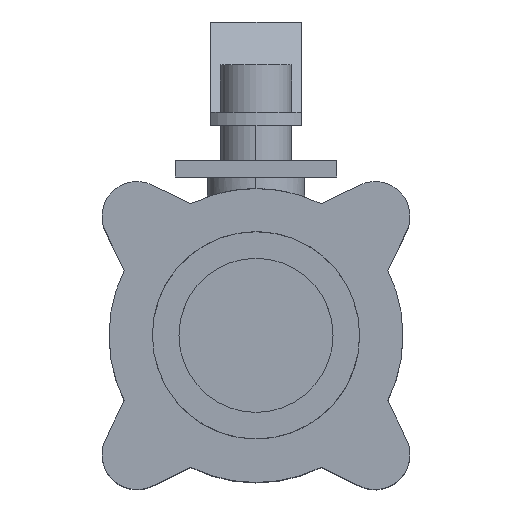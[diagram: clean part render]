
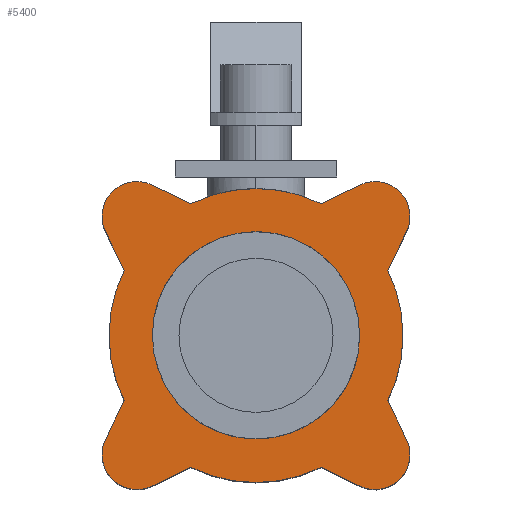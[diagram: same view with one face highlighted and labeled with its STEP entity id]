
A CAD part, top view. The second image highlights one B-rep face of the part: STEP entity #5400.
In plain terms, the highlighted planar face has unit normal (0, 0, 1) as drawn and (-1, 0, 0) by its records, which use the part's own axes.
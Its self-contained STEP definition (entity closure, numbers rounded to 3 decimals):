
#950=CARTESIAN_POINT('',(-75.5,0.,0.));
#960=DIRECTION('',(-1.,0.,0.));
#970=DIRECTION('',(0.,0.,1.));
#980=AXIS2_PLACEMENT_3D('',#950,#960,#970);
#990=CIRCLE('',#980,45.4);
#1000=CARTESIAN_POINT('',(-75.5,14.515,43.017));
#1010=VERTEX_POINT('',#1000);
#1020=CARTESIAN_POINT('',(-75.5,43.017,14.515));
#1030=VERTEX_POINT('',#1020);
#1040=EDGE_CURVE('',#1010,#1030,#990,.T.);
#1780=CARTESIAN_POINT('',(-75.5,14.515,43.017));
#1790=DIRECTION('',(0.,0.326,-0.946));
#1800=VECTOR('',#1790,1.);
#1810=LINE('',#1780,#1800);
#1820=CARTESIAN_POINT('',(-75.5,10.212,55.516));
#1830=VERTEX_POINT('',#1820);
#1840=EDGE_CURVE('',#1830,#1010,#1810,.T.);
#2090=CARTESIAN_POINT('',(-75.5,-43.017,14.515));
#2100=DIRECTION('',(0.,0.946,0.326));
#2110=VECTOR('',#2100,1.);
#2120=LINE('',#2090,#2110);
#2130=CARTESIAN_POINT('',(-75.5,-55.516,10.212));
#2140=VERTEX_POINT('',#2130);
#2150=CARTESIAN_POINT('',(-75.5,-43.017,14.515));
#2160=VERTEX_POINT('',#2150);
#2170=EDGE_CURVE('',#2140,#2160,#2120,.T.);
#2940=CARTESIAN_POINT('',(-75.5,-43.017,-14.515));
#2950=VERTEX_POINT('',#2940);
#2980=CARTESIAN_POINT('',(-75.5,-55.516,-10.212));
#2990=DIRECTION('',(0.,0.946,-0.326));
#3000=VECTOR('',#2990,1.);
#3010=LINE('',#2980,#3000);
#3020=CARTESIAN_POINT('',(-75.5,-55.516,-10.212));
#3030=VERTEX_POINT('',#3020);
#3040=EDGE_CURVE('',#3030,#2950,#3010,.T.);
#3330=CARTESIAN_POINT('',(-75.5,-10.212,55.516));
#3340=VERTEX_POINT('',#3330);
#3370=CARTESIAN_POINT('',(-75.5,0.,52.));
#3380=DIRECTION('',(-1.,0.,0.));
#3390=DIRECTION('',(0.,0.,1.));
#3400=AXIS2_PLACEMENT_3D('',#3370,#3380,#3390);
#3410=CIRCLE('',#3400,10.8);
#3420=EDGE_CURVE('',#3340,#1830,#3410,.T.);
#4250=CARTESIAN_POINT('',(-75.5,0.,-60.65)
);
#4260=DIRECTION('',(1.,0.,-0.));
#4270=DIRECTION('',(0.,0.,1.));
#4280=AXIS2_PLACEMENT_3D('',#4250,#4260,#4270);
#4290=PLANE('',#4280);
#4300=CARTESIAN_POINT('',(-75.5,10.212,-55.516));
#4310=DIRECTION('',(0.,0.326,0.946));
#4320=VECTOR('',#4310,1.);
#4330=LINE('',#4300,#4320);
#4340=CARTESIAN_POINT('',(-75.5,10.212,-55.516));
#4350=VERTEX_POINT('',#4340);
#4360=CARTESIAN_POINT('',(-75.5,14.515,-43.017));
#4370=VERTEX_POINT('',#4360);
#4380=EDGE_CURVE('',#4350,#4370,#4330,.T.);
#4390=ORIENTED_EDGE('',*,*,#4380,.F.);
#4400=CARTESIAN_POINT('',(-75.5,0.,0.));
#4410=DIRECTION('',(-1.,0.,0.));
#4420=DIRECTION('',(0.,0.,1.));
#4430=AXIS2_PLACEMENT_3D('',#4400,#4410,#4420);
#4440=CIRCLE('',#4430,45.4);
#4450=CARTESIAN_POINT('',(-75.5,43.017,-14.515));
#4460=VERTEX_POINT('',#4450);
#4470=EDGE_CURVE('',#4460,#4370,#4440,.T.);
#4480=ORIENTED_EDGE('',*,*,#4470,.T.);
#4490=CARTESIAN_POINT('',(-75.5,55.516,-10.212));
#4500=DIRECTION('',(0.,0.946,0.326));
#4510=VECTOR('',#4500,1.);
#4520=LINE('',#4490,#4510);
#4530=CARTESIAN_POINT('',(-75.5,55.516,-10.212));
#4540=VERTEX_POINT('',#4530);
#4550=EDGE_CURVE('',#4460,#4540,#4520,.T.);
#4560=ORIENTED_EDGE('',*,*,#4550,.F.);
#4570=CARTESIAN_POINT('',(-75.5,52.,0.));
#4580=DIRECTION('',(1.,0.,0.));
#4590=DIRECTION('',(0.,0.,-1.));
#4600=AXIS2_PLACEMENT_3D('',#4570,#4580,#4590);
#4610=CIRCLE('',#4600,10.8);
#4620=CARTESIAN_POINT('',(-75.5,55.516,10.212));
#4630=VERTEX_POINT('',#4620);
#4640=EDGE_CURVE('',#4540,#4630,#4610,.T.);
#4650=ORIENTED_EDGE('',*,*,#4640,.F.);
#4660=CARTESIAN_POINT('',(-75.5,55.516,10.212));
#4670=DIRECTION('',(0.,0.946,-0.326));
#4680=VECTOR('',#4670,1.);
#4690=LINE('',#4660,#4680);
#4700=EDGE_CURVE('',#1030,#4630,#4690,.T.);
#4710=ORIENTED_EDGE('',*,*,#4700,.T.);
#4720=ORIENTED_EDGE('',*,*,#1040,.T.);
#4730=ORIENTED_EDGE('',*,*,#1840,.T.);
#4740=ORIENTED_EDGE('',*,*,#3420,.T.);
#4750=CARTESIAN_POINT('',(-75.5,-10.212,55.516));
#4760=DIRECTION('',(0.,-0.326,-0.946));
#4770=VECTOR('',#4760,1.);
#4780=LINE('',#4750,#4770);
#4790=CARTESIAN_POINT('',(-75.5,-14.515,43.017));
#4800=VERTEX_POINT('',#4790);
#4810=EDGE_CURVE('',#3340,#4800,#4780,.T.);
#4820=ORIENTED_EDGE('',*,*,#4810,.F.);
#4830=CARTESIAN_POINT('',(-75.5,0.,0.));
#4840=DIRECTION('',(-1.,0.,0.));
#4850=DIRECTION('',(0.,0.,1.));
#4860=AXIS2_PLACEMENT_3D('',#4830,#4840,#4850);
#4870=CIRCLE('',#4860,45.4);
#4880=EDGE_CURVE('',#2160,#4800,#4870,.T.);
#4890=ORIENTED_EDGE('',*,*,#4880,.T.);
#4900=ORIENTED_EDGE('',*,*,#2170,.T.);
#4910=CARTESIAN_POINT('',(-75.5,-52.,0.));
#4920=DIRECTION('',(1.,0.,0.));
#4930=DIRECTION('',(0.,0.,-1.));
#4940=AXIS2_PLACEMENT_3D('',#4910,#4920,#4930);
#4950=CIRCLE('',#4940,10.8);
#4960=EDGE_CURVE('',#2140,#3030,#4950,.T.);
#4970=ORIENTED_EDGE('',*,*,#4960,.F.);
#4980=ORIENTED_EDGE('',*,*,#3040,.F.);
#4990=CARTESIAN_POINT('',(-75.5,0.,0.));
#5000=DIRECTION('',(-1.,0.,0.));
#5010=DIRECTION('',(0.,0.,1.));
#5020=AXIS2_PLACEMENT_3D('',#4990,#5000,#5010);
#5030=CIRCLE('',#5020,45.4);
#5040=CARTESIAN_POINT('',(-75.5,-14.515,-43.017));
#5050=VERTEX_POINT('',#5040);
#5060=EDGE_CURVE('',#5050,#2950,#5030,.T.);
#5070=ORIENTED_EDGE('',*,*,#5060,.T.);
#5080=CARTESIAN_POINT('',(-75.5,-10.212,-55.516));
#5090=DIRECTION('',(0.,0.326,-0.946));
#5100=VECTOR('',#5090,1.);
#5110=LINE('',#5080,#5100);
#5120=CARTESIAN_POINT('',(-75.5,-10.212,-55.516));
#5130=VERTEX_POINT('',#5120);
#5140=EDGE_CURVE('',#5050,#5130,#5110,.T.);
#5150=ORIENTED_EDGE('',*,*,#5140,.F.);
#5160=CARTESIAN_POINT('',(-75.5,0.,-52.));
#5170=DIRECTION('',(1.,0.,0.));
#5180=DIRECTION('',(0.,0.,-1.));
#5190=AXIS2_PLACEMENT_3D('',#5160,#5170,#5180);
#5200=CIRCLE('',#5190,10.8);
#5210=EDGE_CURVE('',#5130,#4350,#5200,.T.);
#5220=ORIENTED_EDGE('',*,*,#5210,.F.);
#5230=EDGE_LOOP('',(#5220,#5150,#5070,#4980,#4970,#4900,#4890,#4820,
#4740,#4730,#4720,#4710,#4650,#4560,#4480,#4390));
#5240=FACE_OUTER_BOUND('',#5230,.T.);
#5250=CARTESIAN_POINT('',(-75.5,0.,0.));
#5260=DIRECTION('',(-1.,0.,0.));
#5270=DIRECTION('',(0.,-0.707,0.707));
#5280=AXIS2_PLACEMENT_3D('',#5250,#5260,#5270);
#5290=CIRCLE('',#5280,25.4);
#5300=CARTESIAN_POINT('',(-75.5,-17.961,17.961));
#5310=VERTEX_POINT('',#5300);
#5320=CARTESIAN_POINT('',(-75.5,17.961,-17.961));
#5330=VERTEX_POINT('',#5320);
#5340=EDGE_CURVE('',#5310,#5330,#5290,.T.);
#5350=ORIENTED_EDGE('',*,*,#5340,.F.);
#5360=EDGE_CURVE('',#5330,#5310,#5290,.T.);
#5370=ORIENTED_EDGE('',*,*,#5360,.F.);
#5380=EDGE_LOOP('',(#5370,#5350));
#5390=FACE_BOUND('',#5380,.T.);
#5400=ADVANCED_FACE('',(#5240,#5390),#4290,.F.);
